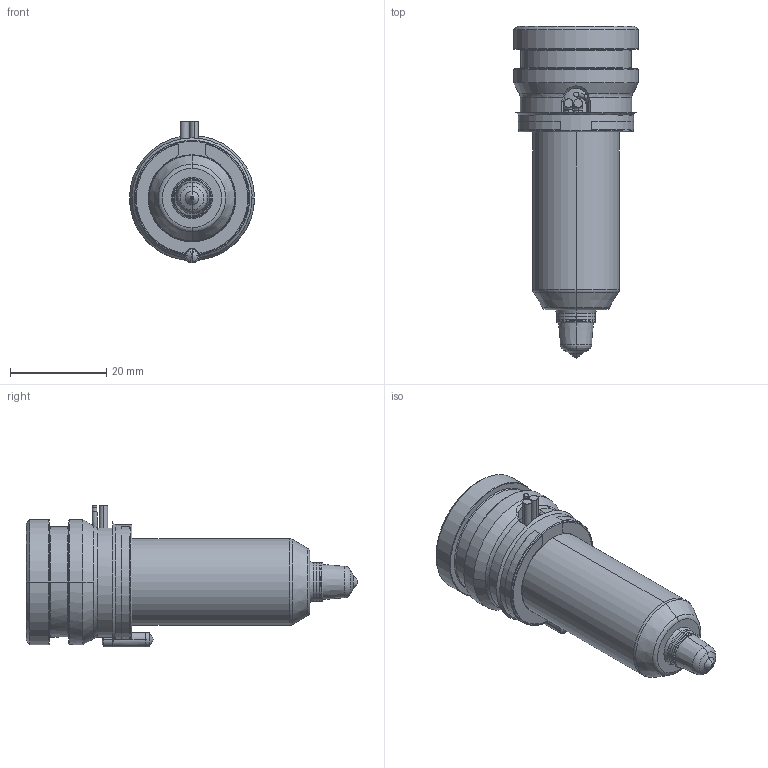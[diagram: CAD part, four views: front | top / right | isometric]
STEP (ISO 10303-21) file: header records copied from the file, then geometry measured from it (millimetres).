
FILE_DESCRIPTION((''),'2;1');
FILE_NAME('TH18051-A-1B50-PK-JG','2023-12-14T',('umhib'),('Thermoplay S.p.A.'),'PRO/ENGINEER BY PARAMETRIC TECHNOLOGY CORPORATION, 2017170','PRO/ENGINEER BY PARAMETRIC TECHNOLOGY CORPORATION, 2017170','');
FILE_SCHEMA(('CONFIG_CONTROL_DESIGN'));
Length unit declared in the file: millimetre
Products named in the file (1): TH18051-A-1B50-PK-JG
Bounding box: 26 x 69 x 29.5 mm (x, y, z)
Volume: 15138 mm3; surface area: 11146.4 mm2
Topology: 1 solids, 2 shells, 394 faces, 1026 edges, 637 vertices
Faces by surface type: cylinder 151, plane 85, cone 66, torus 54, bspline 24, sphere 12, extrusion 2
Entity records: 17999 total; most frequent: CARTESIAN_POINT 6176, ORIENTED_EDGE 2028, DIRECTION 2015, EDGE_CURVE 1016, AXIS2_PLACEMENT_3D 808, VERTEX_POINT 637, CIRCLE 439, EDGE_LOOP 414
